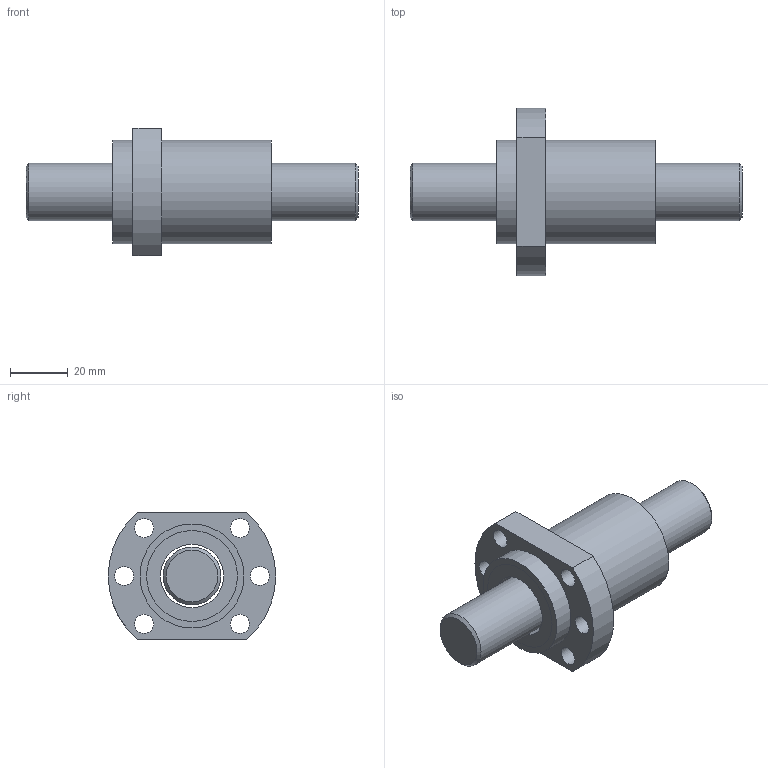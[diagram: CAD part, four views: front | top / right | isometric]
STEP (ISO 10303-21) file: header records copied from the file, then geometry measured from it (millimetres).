
FILE_DESCRIPTION (( 'STEP AP203' ), '1' );
FILE_NAME ('SFNH2010-3.8.STEP', '2023-07-28T01:10:29', ( '' ), ( '' ), 'SwSTEP 2.0', 'SolidWorks 2022', '' );
FILE_SCHEMA (( 'CONFIG_CONTROL_DESIGN' ));
Length unit declared in the file: millimetre
Products named in the file (1): SFNH2010-3.8
Bounding box: 115 x 58 x 44 mm (x, y, z)
Volume: 81412.8 mm3; surface area: 28242 mm2
Topology: 4 solids, 4 shells, 62 faces, 124 edges, 82 vertices
Faces by surface type: cylinder 33, plane 23, cone 3, bspline 3
Full cylindrical faces by diameter (mm): 4 x1, 5 x5, 6.6 x6, 20 x1, 22 x3, 28 x4, 31.5 x4, 33 x4, 36 x2
Entity records: 2518 total; most frequent: CARTESIAN_POINT 1354, DIRECTION 234, ORIENTED_EDGE 154, EDGE_LOOP 118, AXIS2_PLACEMENT_3D 111, FACE_OUTER_BOUND 83, EDGE_CURVE 77, VERTEX_POINT 69
